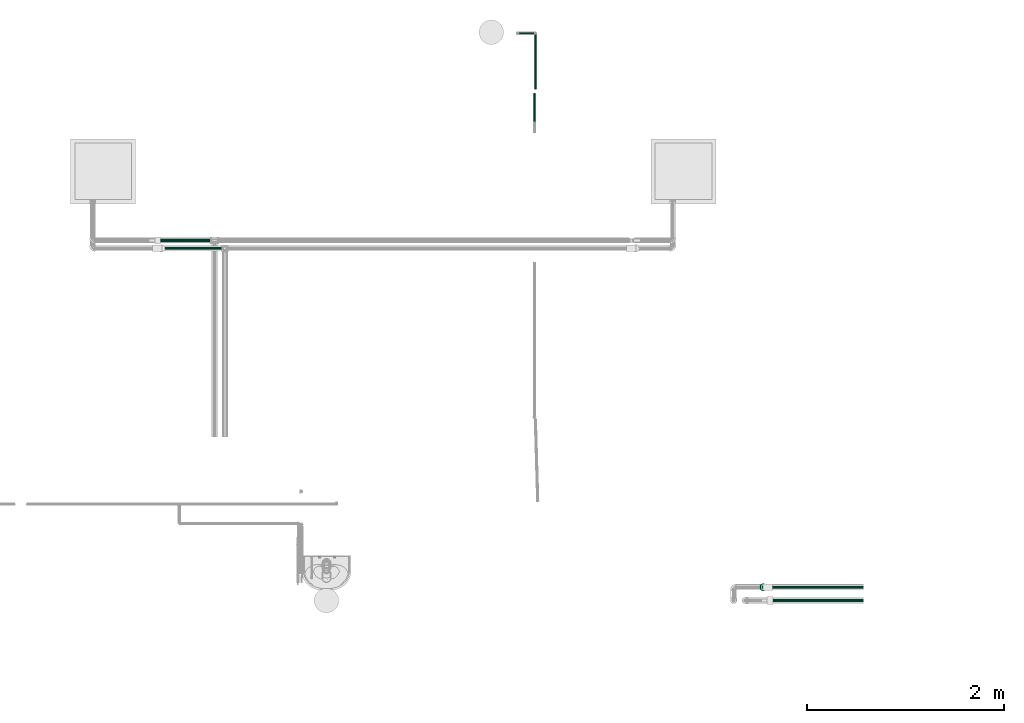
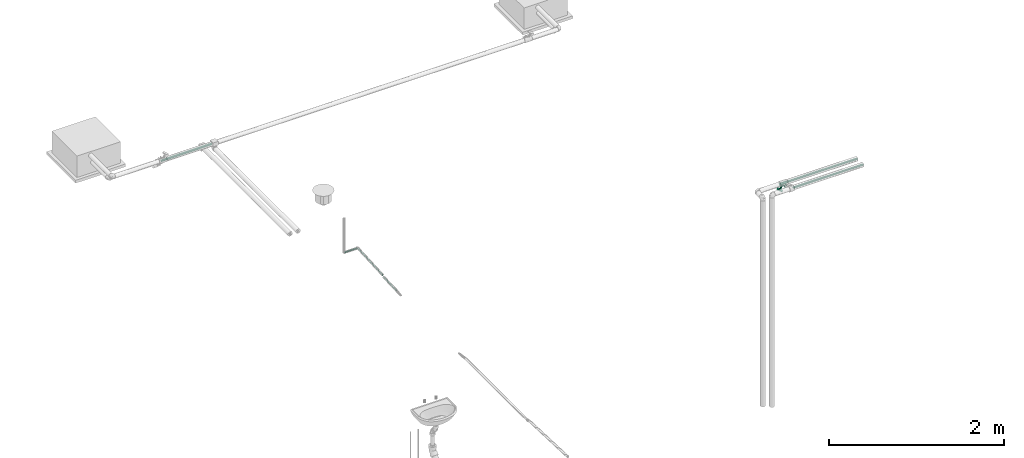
# One storey, part 59 of 108: 7 flow segments, 1 flow controller.
"""IFC2X3 building model written with IfcOpenShell, lengths in millimetres."""

from ifc_helpers import new_model, entity, si_unit, converted_unit, derived_unit, direction, frame, origin_with_axes, origin_2d_with_axis, place, context, subcontext, project, spatial, hollow_circle, extrude, open_shell, surface_model, source, transform, mapped, type_object, element, save


model = new_model("IFC2X3")

# Units and contexts
model_context = context("Model", 3, precision=0.01, world=frame((0.0, 4.29681676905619e-09, 0.0)), true_north=direction((4.01073788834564e-13, 1.0)))
plan_context = context("Plan", 3, precision=0.01, world=frame((0.0, 4.29681676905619e-09, 0.0)), true_north=direction((4.01073788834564e-13, 1.0)))
body_context = subcontext(model_context, "Body", "Model", "MODEL_VIEW")
ifc_project = project(units=[converted_unit("PLANEANGLEUNIT", "DEGREE", entity("IfcPositiveLengthMeasure", 0.0174532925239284), si_unit("PLANEANGLEUNIT", "RADIAN"), dimensions=[0, 0, 0, 0, 0, 0, 0]), si_unit("AREAUNIT", "SQUARE_METRE"), si_unit("LENGTHUNIT", "METRE", prefix="MILLI"), si_unit("MASSUNIT", "GRAM", prefix="KILO"), si_unit("POWERUNIT", "WATT"), si_unit("PRESSUREUNIT", "PASCAL", prefix="KILO"), si_unit("FORCEUNIT", "NEWTON", prefix="KILO"), si_unit("ELECTRICVOLTAGEUNIT", "VOLT"), si_unit("ELECTRICCURRENTUNIT", "AMPERE"), si_unit("THERMODYNAMICTEMPERATUREUNIT", "DEGREE_CELSIUS"), si_unit("TIMEUNIT", "SECOND"), si_unit("VOLUMEUNIT", "CUBIC_METRE"), derived_unit("LINEARVELOCITYUNIT", [(si_unit("LENGTHUNIT", "METRE"), 1), (si_unit("TIMEUNIT", "SECOND"), -1)]), derived_unit("VOLUMETRICFLOWRATEUNIT", [(si_unit("VOLUMEUNIT", "CUBIC_METRE"), 1), (si_unit("TIMEUNIT", "SECOND"), -1)]), derived_unit("THERMALTRANSMITTANCEUNIT", [(si_unit("POWERUNIT", "WATT"), 1), (si_unit("THERMODYNAMICTEMPERATUREUNIT", "KELVIN"), -1), (si_unit("AREAUNIT", "SQUARE_METRE"), -1)]), derived_unit("SOUNDPRESSUREUNIT", [(si_unit("PRESSUREUNIT", "PASCAL"), 1)])], contexts=[model_context, plan_context])

# Site, building, storey
site_placement = place(None, frame((0.0, -4.29681676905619e-09, 0.0), z_axis=(0.0, 0.0, 1.0), x_axis=(1.0, 0.0, 0.0)))
site = spatial("IfcSite", under=ifc_project, at=site_placement, CompositionType="ELEMENT")
building_placement = place(site_placement, frame((0.0, 4.29681676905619e-09, 0.0), z_axis=(0.0, 0.0, 1.0), x_axis=(1.0, 0.0, 0.0)))
building = spatial("IfcBuilding", under=site, at=building_placement, Name="mc-building", CompositionType="ELEMENT")
storey_placement = place(building_placement, frame((0.0, 0.0, 210200.0), z_axis=(0.0, 0.0, 1.0), x_axis=(1.0, 0.0, 0.0)))
storey = spatial("IfcBuildingStorey", under=building, at=storey_placement, Name="Nivå F - 0,7 m", CompositionType="ELEMENT", Elevation=210200.0)

# Flow controller
valve_type = type_object("IfcValveType", Name="STAD/F-20", PredefinedType="NOTDEFINED")
shared_shape_1 = source(origin_with_axes(), body_context, "Body", "SurfaceModel", [
    surface_model("IfcShellBasedSurfaceModel", [(5.41266, -10.82532, 3.125), (7.65466, -8.83883, 4.41942), (5.32606, -10.65211, 3.075), (2.75697, -11.88089, 1.59174), (0.0, -12.3, 0.0), (2.8018, -12.07407, 1.61762), (0.0, -12.5, 0.0), (7.53218, -8.69741, 4.34871), (10.45645, -3.23524, 6.03704), (10.65211, 0.0, 6.15), (10.28915, -3.18347, 5.94044), (10.82532, 0.0, 6.25), (9.375, -6.25, 5.41266), (9.225, -6.15, 5.32606), (-2.75697, -11.88089, -1.59174), (-2.8018, -12.07407, -1.61762), (-5.32606, -10.65211, -3.075), (-7.65466, -8.83883, -4.41942), (-5.41266, -10.82532, -3.125), (-7.53218, -8.69741, -4.34871), (-9.225, -6.15, -5.32606), (-9.375, -6.25, -5.41266), (-10.28915, -3.18347, -5.94044), (-10.45645, -3.23524, -6.03704), (-10.65211, 0.0, -6.15), (-10.82532, 0.0, -6.25), (10.45645, 3.23524, 6.03704), (10.28915, 3.18347, 5.94044), (9.225, 6.15, 5.32606), (9.375, 6.25, 5.41266), (7.53218, 8.69741, 4.34871), (7.65466, 8.83883, 4.41942), (5.41266, 10.82532, 3.125), (5.32606, 10.65211, 3.075), (2.75697, 11.88089, 1.59174), (2.8018, 12.07407, 1.61762), (0.0, 12.3, 0.0), (0.0, 12.5, 0.0), (-9.375, 6.25, -5.41266), (-9.225, 6.15, -5.32606), (-7.65466, 8.83883, -4.41942), (-7.53218, 8.69741, -4.34871), (-10.45645, 3.23524, -6.03704), (-10.28915, 3.18347, -5.94044), (-2.75697, 11.88089, -1.59174), (-2.8018, 12.07407, -1.61762), (-5.32606, 10.65211, -3.075), (-5.41266, 10.82532, -3.125), (78.86936, 9.70571, -64.16131), (70.46396, 26.5165, -69.01416), (75.625, 18.75, -66.03444), (24.53603, 26.5165, -95.53067), (16.13063, 9.70571, -100.38353), (19.37499, 18.75, -98.51039), (31.26202, 32.47595, -91.64741), (63.73797, -32.47595, -72.89742), (75.625, -18.75, -66.03444), (70.46396, -26.5165, -69.01416), (55.90539, -36.22222, -77.41956), (47.49999, -37.5, -82.27241), (69.625, -18.75, -55.64213), (57.73797, -32.47595, -62.50511), (64.46396, -26.5165, -58.62186), (10.13063, -9.70571, -89.99122), (10.13063, 9.70571, -89.99122), (9.02404, 0.0, -90.63011), (72.86936, -9.70571, -53.769), (64.46396, 26.5165, -58.62186), (72.86936, 9.70571, -53.769), (69.625, 18.75, -55.64213), (57.73797, 32.47595, -62.50511), (49.90539, 36.22222, -67.02725), (25.26202, 32.47595, -81.25511), (41.5, 37.5, -71.88011), (33.0946, 36.22222, -76.73297), (13.375, 18.75, -88.11809), (18.53603, 26.5165, -85.13836), (39.0946, 36.22222, -87.12527), (15.02404, 0.0, -101.02241), (47.49999, 37.5, -82.27241), (55.90539, 36.22222, -77.41956), (63.73797, 32.47595, -72.89742), (79.97595, 0.0, -63.52242), (73.97595, 0.0, -53.13011), (78.86936, -9.70571, -64.16131), (49.90539, -36.22222, -67.02725), (41.5, -37.5, -71.88011), (33.0946, -36.22222, -76.73297), (39.0946, -36.22222, -87.12527), (25.26202, -32.47595, -81.25511), (31.26202, -32.47595, -91.64741), (19.37499, -18.75, -98.51039), (18.53603, -26.5165, -85.13836), (13.375, -18.75, -88.11809), (24.53603, -26.5165, -95.53067), (16.13063, -9.70571, -100.38353), (46.91266, 10.82532, -68.75511), (49.15465, 8.83883, -67.46069), (46.82605, 10.65211, -68.80511), (44.25696, 11.88089, -70.28837), (41.5, 12.3, -71.88011), (44.30179, 12.07407, -70.26249), (41.5, 12.5, -71.88011), (49.03218, 8.69741, -67.5314), (51.95645, 3.23524, -65.84307), (52.15211, 0.0, -65.73011), (51.78915, 3.18347, -65.93967), (52.32531, 0.0, -65.63011), (50.875, 6.25, -66.46745), (50.725, 6.15, -66.55405), (38.74302, 11.88089, -73.47185), (38.6982, 12.07407, -73.49773), (36.17394, 10.65211, -74.95511), (33.84534, 8.83883, -76.29953), (36.08734, 10.82532, -75.00511), (33.96781, 8.69741, -76.22881), (32.275, 6.15, -77.20617), (32.125, 6.25, -77.29277), (31.21084, 3.18347, -77.82055), (31.04354, 3.23524, -77.91715), (30.84788, 0.0, -78.03011), (30.67468, 0.0, -78.13011), (51.95645, -3.23524, -65.84307), (51.78915, -3.18347, -65.93967), (50.725, -6.15, -66.55405), (50.875, -6.25, -66.46745), (49.03218, -8.69741, -67.5314), (49.15465, -8.83883, -67.46069), (46.91266, -10.82532, -68.75511), (46.82605, -10.65211, -68.80511), (44.25696, -11.88089, -70.28837), (44.30179, -12.07407, -70.26249), (41.5, -12.3, -71.88011), (41.5, -12.5, -71.88011), (32.125, -6.25, -77.29277), (32.275, -6.15, -77.20617), (33.84534, -8.83883, -76.29953), (33.96781, -8.69741, -76.22881), (31.04354, -3.23524, -77.91715), (31.21084, -3.18347, -77.82055), (38.74302, -11.88089, -73.47185), (38.6982, -12.07407, -73.49773), (36.17394, -10.65211, -74.95511), (36.08734, -10.82532, -75.00511), (48.5, 8.91, -15.43257), (48.5, 17.82, 0.0), (48.5, -8.91, -15.43257), (48.5, 8.91, 15.43257), (48.5, -8.91, 15.43257), (48.5, -17.82, 0.0), (38.5, -17.82, 0.0), (38.5, -8.91, 15.43257), (38.5, -8.91, -15.43257), (38.5, 8.91, 15.43257), (38.5, 17.82, 0.0), (38.5, 8.91, -15.43257), (-48.5, -8.91, -15.43257), (-48.5, -17.82, 0.0), (-48.5, 8.91, -15.43257), (-48.5, -8.91, 15.43257), (-48.5, 8.91, 15.43257), (-48.5, 17.82, 0.0), (-38.5, 17.82, 0.0), (-38.5, 8.91, 15.43257), (-38.5, 8.91, -15.43257), (-38.5, -8.91, 15.43257), (-38.5, -17.82, 0.0), (-38.5, -8.91, -15.43257), (38.5, 7.425, -12.86048), (38.5, -7.425, -12.86048), (38.5, 3.84346, -14.344), (38.5, 10.50054, -10.50054), (38.5, -14.344, 3.84346), (38.5, -3.84346, 14.344), (38.5, 12.86048, -7.425), (38.5, 14.344, -3.84346), (38.5, -10.50054, 10.50054), (38.5, 0.0, -14.85), (38.5, -3.84346, -14.344), (38.5, -10.50054, -10.50054), (38.5, -14.344, -3.84346), (38.5, -12.86048, -7.425), (38.5, 14.85, 0.0), (38.5, 14.344, 3.84346), (38.5, 12.86048, 7.425), (38.5, 10.50054, 10.50054), (38.5, 7.425, 12.86048), (38.5, 3.84346, 14.344), (38.5, 0.0, 14.85), (38.5, -12.86048, 7.425), (38.5, -14.85, 0.0), (38.5, -7.425, 12.86048), (-38.5, 0.0, 14.85), (-38.5, 3.84346, 14.344), (-38.5, 7.425, 12.86048), (-38.5, -3.84346, 14.344), (-38.5, 10.50054, 10.50054), (-38.5, 12.86048, 7.425), (-38.5, 14.344, 3.84346), (-38.5, -10.50054, 10.50054), (-38.5, -7.425, 12.86048), (-38.5, -14.344, 3.84346), (-38.5, -12.86048, 7.425), (-38.5, -14.344, -3.84346), (-38.5, -14.85, 0.0), (-38.5, 10.50054, -10.50054), (-38.5, 14.344, -3.84346), (-38.5, 12.86048, -7.425), (-38.5, 7.425, -12.86048), (-38.5, -7.425, -12.86048), (-38.5, 0.0, -14.85), (-38.5, 3.84346, -14.344), (-38.5, -10.50054, -10.50054), (-38.5, -12.86048, -7.425), (-38.5, -3.84346, -14.344), (-38.5, 14.85, 0.0), (-21.28648, 6.49519, -65.18525), (-29.12686, 5.3033, -60.6586), (-22.85299, 7.24444, -64.28082), (-18.90907, 3.75, -66.55784), (-19.94128, 5.3033, -65.9619), (-18.2602, 1.94114, -66.93247), (-18.03888, 0.0, -67.06025), (-31.02926, 0.0, -59.56025), (-26.21515, 7.24444, -62.33968), (-27.78167, 6.49519, -61.43524), (-24.53407, 7.5, -63.31025), (-30.15907, 3.75, -60.06265), (-30.80794, 1.94114, -59.68803), (-18.90907, -3.75, -66.55784), (-21.28648, -6.49519, -65.18525), (-19.94128, -5.3033, -65.9619), (-22.85299, -7.24444, -64.28082), (-24.53407, -7.5, -63.31025), (-29.12686, -5.3033, -60.6586), (-30.15907, -3.75, -60.06265), (-30.80794, -1.94114, -59.68803), (-26.21515, -7.24444, -62.33968), (-27.78167, -6.49519, -61.43524), (-18.2602, -1.94114, -66.93247), (11.647, -7.24444, -4.52506), (5.37313, -5.3033, -0.90284), (9.96592, -7.5, -3.55449), (14.55872, -5.3033, -6.20614), (13.21352, -6.49519, -5.42949), (16.2398, 1.94114, -7.17671), (15.59092, -3.75, -6.80209), (16.46111, 0.0, -7.30449), (8.28485, -7.24444, -2.58392), (6.71833, -6.49519, -1.67949), (3.69205, -1.94114, 0.06773), (4.34092, -3.75, -0.3069), (3.69205, 1.94114, 0.06773), (3.47073, 0.0, 0.19551), (16.2398, -1.94114, -7.17671), (11.647, 7.24444, -4.52506), (15.59092, 3.75, -6.80209), (14.55872, 5.3033, -6.20614), (13.21352, 6.49519, -5.42949), (6.71833, 6.49519, -1.67949), (5.37313, 5.3033, -0.90284), (4.34092, 3.75, -0.3069), (9.96592, 7.5, -3.55449), (8.28485, 7.24444, -2.58392), (-45.53519, 7.5, -51.18525), (-43.85411, 7.24444, -52.15582), (-42.28759, 6.49519, -53.06025), (-40.9424, 5.3033, -53.8369), (-51.80906, 1.94114, -47.56303), (-39.26132, 1.94114, -54.80747), (-39.91019, 3.75, -54.43284), (-51.80906, -1.94114, -47.56303), (-47.21627, 7.24444, -50.21468), (-50.12798, 5.3033, -48.5336), (-48.78278, 6.49519, -49.31025), (-51.16019, 3.75, -47.93765), (-39.04, 0.0, -54.93525), (-39.26132, -1.94114, -54.80747), (-39.91019, -3.75, -54.43284), (-40.9424, -5.3033, -53.8369), (-42.28759, -6.49519, -53.06025), (-43.85411, -7.24444, -52.15582), (-45.53519, -7.5, -51.18525), (-50.12798, -5.3033, -48.5336), (-51.16019, -3.75, -47.93765), (-52.03038, 0.0, -47.43525), (-47.21627, -7.24444, -50.21468), (-48.78278, -6.49519, -49.31025), (-19.35411, -7.24444, -9.72057), (-25.62798, -5.3033, -6.09835), (-21.03519, -7.5, -8.75), (-16.4424, -5.3033, -11.40165), (-17.7876, -6.49519, -10.625), (-15.41019, -3.75, -11.9976), (-14.76132, -1.94114, -12.37222), (-24.28279, -6.49519, -6.875), (-22.71627, -7.24444, -7.77943), (-26.66019, -3.75, -5.50241), (-27.30906, -1.94114, -5.12778), (-27.30906, 1.94114, -5.12778), (-27.53038, 0.0, -5.0), (-14.76132, 1.94114, -12.37222), (-19.35411, 7.24444, -9.72057), (-16.4424, 5.3033, -11.40165), (-15.41019, 3.75, -11.9976), (-17.7876, 6.49519, -10.625), (-25.62798, 5.3033, -6.09835), (-26.66019, 3.75, -5.50241), (-24.28279, 6.49519, -6.875), (-21.03519, 7.5, -8.75), (-22.71627, 7.24444, -7.77943), (-14.54, 0.0, -12.5)], [open_shell([[[0, 1, 2]], [[0, 2, 3]], [[4, 5, 3]], [[5, 4, 6]], [[3, 5, 0]], [[2, 1, 7]], [[8, 9, 10]], [[9, 8, 11]], [[8, 10, 12]], [[7, 12, 13]], [[12, 7, 1]], [[13, 12, 10]], [[6, 14, 15]], [[15, 14, 16]], [[17, 18, 19]], [[16, 18, 15]], [[16, 19, 18]], [[6, 4, 14]], [[20, 21, 17]], [[21, 20, 22]], [[20, 17, 19]], [[23, 22, 24]], [[22, 23, 21]], [[23, 24, 25]], [[11, 26, 27]], [[27, 26, 28]], [[28, 29, 30]], [[29, 28, 26]], [[30, 29, 31]], [[31, 32, 33]], [[33, 32, 34]], [[34, 35, 36]], [[35, 34, 32]], [[36, 35, 37]], [[33, 30, 31]], [[38, 39, 40]], [[40, 39, 41]], [[39, 38, 42]], [[25, 43, 42]], [[42, 43, 39]], [[25, 24, 43]], [[44, 37, 45]], [[44, 45, 46]], [[41, 47, 40]], [[41, 46, 47]], [[47, 46, 45]], [[36, 37, 44]], [[27, 9, 11]], [[48, 49, 50]], [[51, 52, 53]], [[52, 51, 54]], [[55, 56, 57]], [[55, 58, 59]], [[60, 61, 62]], [[63, 64, 65]], [[63, 66, 67]], [[66, 68, 67]], [[67, 68, 69]], [[67, 70, 71]], [[72, 73, 74]], [[64, 52, 65]], [[75, 53, 64]], [[54, 76, 72]], [[75, 76, 51]], [[77, 72, 74]], [[64, 53, 52]], [[52, 78, 65]], [[77, 54, 72]], [[51, 76, 54]], [[51, 53, 75]], [[79, 77, 74]], [[74, 73, 79]], [[71, 80, 73]], [[70, 81, 71]], [[50, 67, 69]], [[70, 67, 49]], [[48, 69, 68]], [[70, 49, 81]], [[81, 80, 71]], [[82, 48, 68]], [[50, 69, 48]], [[50, 49, 67]], [[83, 82, 68]], [[73, 80, 79]], [[66, 84, 83]], [[60, 56, 66]], [[55, 62, 61]], [[60, 62, 57]], [[58, 61, 85]], [[66, 56, 84]], [[84, 82, 83]], [[58, 55, 61]], [[57, 62, 55]], [[57, 56, 60]], [[59, 58, 85]], [[85, 86, 59]], [[87, 88, 86]], [[89, 90, 87]], [[91, 92, 93]], [[89, 92, 94]], [[95, 93, 63]], [[89, 94, 90]], [[90, 88, 87]], [[78, 95, 63]], [[91, 93, 95]], [[91, 94, 92]], [[65, 78, 63]], [[86, 88, 59]], [[96, 97, 98]], [[96, 98, 99]], [[100, 101, 99]], [[101, 100, 102]], [[99, 101, 96]], [[98, 97, 103]], [[104, 105, 106]], [[105, 104, 107]], [[104, 106, 108]], [[103, 108, 109]], [[108, 103, 97]], [[109, 108, 106]], [[102, 110, 111]], [[111, 110, 112]], [[113, 114, 115]], [[112, 114, 111]], [[112, 115, 114]], [[102, 100, 110]], [[116, 117, 113]], [[117, 116, 118]], [[116, 113, 115]], [[119, 118, 120]], [[118, 119, 117]], [[119, 120, 121]], [[107, 122, 123]], [[123, 122, 124]], [[124, 125, 126]], [[125, 124, 122]], [[126, 125, 127]], [[127, 128, 129]], [[129, 128, 130]], [[130, 131, 132]], [[131, 130, 128]], [[132, 131, 133]], [[129, 126, 127]], [[134, 135, 136]], [[136, 135, 137]], [[135, 134, 138]], [[121, 139, 138]], [[138, 139, 135]], [[121, 120, 139]], [[140, 133, 141]], [[140, 141, 142]], [[137, 143, 136]], [[137, 142, 143]], [[143, 142, 141]], [[132, 133, 140]], [[123, 105, 107]], [[42, 119, 25]], [[38, 117, 42]], [[114, 40, 47]], [[38, 40, 113]], [[111, 47, 45]], [[42, 117, 119]], [[119, 121, 25]], [[111, 114, 47]], [[113, 40, 114]], [[113, 117, 38]], [[102, 111, 45]], [[45, 37, 102]], [[35, 101, 37]], [[32, 96, 35]], [[108, 31, 29]], [[32, 31, 97]], [[104, 29, 26]], [[32, 97, 96]], [[96, 101, 35]], [[107, 104, 26]], [[108, 29, 104]], [[108, 97, 31]], [[11, 107, 26]], [[37, 101, 102]], [[8, 122, 11]], [[12, 125, 8]], [[128, 1, 0]], [[12, 1, 127]], [[131, 0, 5]], [[11, 122, 107]], [[8, 125, 122]], [[1, 128, 127]], [[12, 127, 125]], [[0, 131, 128]], [[5, 133, 131]], [[5, 6, 133]], [[15, 141, 6]], [[18, 143, 15]], [[134, 17, 21]], [[18, 17, 136]], [[134, 21, 23]], [[141, 15, 143]], [[143, 18, 136]], [[25, 121, 138]], [[134, 23, 138]], [[134, 136, 17]], [[23, 25, 138]], [[6, 141, 133]], [[24, 118, 43]], [[43, 116, 39]], [[46, 41, 112]], [[115, 41, 39]], [[44, 46, 110]], [[120, 118, 24]], [[118, 116, 43]], [[44, 110, 100]], [[115, 39, 116]], [[112, 41, 115]], [[112, 110, 46]], [[100, 36, 44]], [[30, 33, 98]], [[27, 28, 109]], [[103, 28, 30]], [[9, 27, 106]], [[98, 34, 99]], [[34, 100, 99]], [[98, 33, 34]], [[103, 30, 98]], [[109, 28, 103]], [[27, 109, 106]], [[106, 105, 9]], [[36, 100, 34]], [[9, 123, 10]], [[10, 124, 13]], [[2, 7, 129]], [[126, 7, 13]], [[3, 2, 130]], [[105, 123, 9]], [[123, 124, 10]], [[130, 132, 4]], [[126, 13, 124]], [[2, 129, 130]], [[126, 129, 7]], [[4, 3, 130]], [[16, 14, 142]], [[16, 142, 19]], [[22, 20, 135]], [[137, 20, 19]], [[24, 22, 139]], [[4, 140, 14]], [[140, 142, 14]], [[132, 140, 4]], [[142, 137, 19]], [[135, 20, 137]], [[139, 22, 135]], [[139, 120, 24]], [[144, 145, 146]], [[146, 145, 147]], [[146, 148, 149]], [[148, 146, 147]], [[150, 151, 152]], [[152, 151, 153]], [[154, 155, 152]], [[154, 152, 153]], [[148, 147, 153]], [[153, 151, 148]], [[149, 148, 151]], [[151, 150, 149]], [[146, 149, 150]], [[150, 152, 146]], [[144, 146, 152]], [[152, 155, 144]], [[145, 144, 155]], [[155, 154, 145]], [[147, 145, 154]], [[154, 153, 147]], [[156, 157, 158]], [[158, 157, 159]], [[158, 160, 161]], [[160, 158, 159]], [[162, 163, 164]], [[164, 163, 165]], [[166, 167, 164]], [[166, 164, 165]], [[160, 159, 165]], [[165, 163, 160]], [[161, 160, 163]], [[163, 162, 161]], [[158, 161, 162]], [[162, 164, 158]], [[156, 158, 164]], [[164, 167, 156]], [[157, 156, 167]], [[167, 166, 157]], [[159, 157, 166]], [[166, 165, 159]], [[80, 81, 49]], [[79, 80, 49]], [[52, 49, 48]], [[84, 52, 48]], [[77, 52, 54]], [[77, 79, 49]], [[49, 52, 77]], [[48, 82, 84]], [[56, 78, 84]], [[55, 59, 56]], [[94, 56, 59]], [[95, 94, 91]], [[94, 95, 78]], [[59, 90, 94]], [[94, 78, 56]], [[88, 90, 59]], [[84, 78, 52]], [[85, 92, 86]], [[66, 85, 61]], [[60, 66, 61]], [[92, 85, 66]], [[87, 92, 89]], [[87, 86, 92]], [[92, 63, 93]], [[66, 63, 92]], [[72, 63, 67]], [[73, 67, 71]], [[75, 72, 76]], [[64, 63, 75]], [[75, 63, 72]], [[73, 72, 67]], [[68, 66, 83]], [[168, 169, 170]], [[171, 172, 168]], [[173, 174, 175]], [[176, 171, 174]], [[172, 169, 168]], [[177, 169, 178]], [[177, 170, 169]], [[179, 180, 181]], [[180, 179, 169]], [[169, 172, 180]], [[175, 182, 183]], [[183, 184, 185]], [[183, 185, 186]], [[186, 187, 188]], [[183, 186, 173]], [[173, 186, 188]], [[172, 176, 189]], [[190, 180, 172]], [[176, 173, 191]], [[172, 171, 176]], [[176, 174, 173]], [[183, 173, 175]], [[192, 193, 194]], [[195, 192, 194]], [[196, 197, 198]], [[195, 194, 196]], [[195, 196, 198]], [[195, 199, 200]], [[199, 195, 201]], [[199, 201, 202]], [[195, 198, 201]], [[201, 203, 204]], [[201, 198, 205]], [[206, 207, 198]], [[207, 205, 198]], [[208, 209, 201]], [[201, 205, 208]], [[210, 208, 211]], [[203, 212, 213]], [[212, 203, 209]], [[209, 210, 214]], [[203, 201, 209]], [[208, 210, 209]], [[198, 215, 206]], [[180, 203, 213]], [[212, 181, 213]], [[169, 209, 214]], [[212, 209, 179]], [[178, 214, 210]], [[203, 190, 204]], [[203, 180, 190]], [[213, 181, 180]], [[212, 179, 181]], [[169, 179, 209]], [[214, 178, 169]], [[210, 177, 178]], [[170, 211, 208]], [[205, 168, 208]], [[174, 207, 206]], [[205, 207, 171]], [[175, 206, 215]], [[211, 170, 177]], [[208, 168, 170]], [[205, 171, 168]], [[207, 174, 171]], [[175, 174, 206]], [[215, 182, 175]], [[211, 177, 210]], [[215, 198, 183]], [[186, 194, 193]], [[194, 185, 196]], [[187, 193, 192]], [[215, 183, 182]], [[183, 198, 197]], [[183, 197, 184]], [[197, 196, 184]], [[184, 196, 185]], [[185, 194, 186]], [[193, 187, 186]], [[192, 188, 187]], [[173, 195, 200]], [[199, 191, 200]], [[189, 202, 201]], [[199, 202, 176]], [[172, 201, 204]], [[195, 173, 188]], [[200, 191, 173]], [[199, 176, 191]], [[202, 189, 176]], [[172, 189, 201]], [[204, 190, 172]], [[195, 188, 192]], [[216, 217, 218]], [[219, 216, 220]], [[219, 221, 222]], [[219, 222, 216]], [[223, 217, 216]], [[224, 217, 225]], [[224, 226, 218]], [[227, 223, 228]], [[224, 218, 217]], [[227, 217, 223]], [[223, 216, 222]], [[222, 229, 230]], [[230, 229, 231]], [[230, 232, 233]], [[222, 230, 234]], [[234, 230, 233]], [[223, 235, 236]], [[235, 223, 234]], [[234, 237, 238]], [[223, 222, 234]], [[233, 237, 234]], [[222, 239, 229]], [[240, 241, 242]], [[243, 240, 244]], [[241, 243, 245]], [[243, 241, 240]], [[243, 246, 247]], [[248, 241, 249]], [[248, 242, 241]], [[241, 250, 251]], [[241, 252, 250]], [[250, 252, 253]], [[246, 254, 247]], [[252, 241, 245]], [[255, 245, 256]], [[257, 258, 255]], [[257, 255, 256]], [[259, 245, 255]], [[252, 260, 261]], [[260, 252, 259]], [[259, 262, 263]], [[259, 252, 245]], [[255, 262, 259]], [[245, 243, 247]], [[252, 228, 253]], [[261, 227, 252]], [[225, 260, 259]], [[261, 260, 217]], [[224, 259, 263]], [[252, 227, 228]], [[228, 223, 253]], [[224, 225, 259]], [[217, 260, 225]], [[217, 227, 261]], [[226, 224, 263]], [[263, 262, 226]], [[255, 218, 262]], [[258, 216, 255]], [[219, 257, 256]], [[258, 257, 220]], [[221, 256, 245]], [[258, 220, 216]], [[216, 218, 255]], [[222, 221, 245]], [[219, 256, 221]], [[219, 220, 257]], [[247, 222, 245]], [[262, 218, 226]], [[254, 239, 247]], [[246, 229, 254]], [[230, 243, 244]], [[246, 243, 231]], [[232, 244, 240]], [[247, 239, 222]], [[254, 229, 239]], [[243, 230, 231]], [[246, 231, 229]], [[244, 232, 230]], [[240, 233, 232]], [[240, 242, 233]], [[248, 237, 242]], [[249, 238, 248]], [[235, 241, 251]], [[249, 241, 234]], [[236, 251, 250]], [[237, 248, 238]], [[238, 249, 234]], [[253, 223, 236]], [[235, 251, 236]], [[235, 234, 241]], [[250, 253, 236]], [[242, 237, 233]], [[264, 265, 266]], [[267, 264, 266]], [[268, 267, 269]], [[269, 267, 270]], [[271, 268, 269]], [[272, 273, 274]], [[273, 272, 264]], [[273, 268, 275]], [[268, 273, 264]], [[264, 267, 268]], [[269, 276, 277]], [[277, 278, 279]], [[280, 269, 279]], [[269, 281, 271]], [[269, 280, 281]], [[271, 281, 282]], [[271, 283, 284]], [[285, 268, 271]], [[283, 286, 287]], [[286, 283, 271]], [[282, 286, 271]], [[269, 277, 279]], [[288, 289, 290]], [[291, 288, 292]], [[291, 293, 294]], [[291, 294, 288]], [[289, 288, 294]], [[290, 295, 296]], [[290, 289, 295]], [[294, 297, 289]], [[298, 297, 294]], [[298, 299, 300]], [[298, 294, 301]], [[298, 301, 302]], [[303, 301, 304]], [[305, 302, 301]], [[305, 301, 303]], [[298, 302, 299]], [[299, 306, 307]], [[306, 299, 308]], [[308, 309, 310]], [[308, 299, 302]], [[302, 309, 308]], [[301, 294, 311]], [[299, 268, 300]], [[307, 275, 299]], [[274, 306, 308]], [[307, 306, 273]], [[272, 308, 310]], [[299, 275, 268]], [[268, 285, 300]], [[272, 274, 308]], [[273, 306, 274]], [[273, 275, 307]], [[264, 272, 310]], [[310, 309, 264]], [[302, 265, 309]], [[305, 266, 302]], [[270, 303, 304]], [[305, 303, 267]], [[269, 304, 301]], [[305, 267, 266]], [[266, 265, 302]], [[276, 269, 301]], [[270, 304, 269]], [[270, 267, 303]], [[311, 276, 301]], [[309, 265, 264]], [[294, 277, 311]], [[293, 278, 294]], [[280, 291, 292]], [[293, 291, 279]], [[281, 292, 288]], [[294, 278, 277]], [[277, 276, 311]], [[281, 280, 292]], [[279, 291, 280]], [[279, 278, 293]], [[282, 281, 288]], [[288, 290, 282]], [[296, 286, 290]], [[295, 287, 296]], [[284, 289, 297]], [[295, 289, 283]], [[271, 297, 298]], [[295, 283, 287]], [[287, 286, 296]], [[285, 271, 298]], [[284, 297, 271]], [[284, 283, 289]], [[300, 285, 298]], [[290, 286, 282]]])]),
])
flow_controller_placement = place(storey_placement, frame((343894.49418, 460458.91341, 2545.5), z_axis=(0.0, 0.0, 1.0), x_axis=(-1.0, 0.0, 0.0)))
element("IfcFlowController", 1, at=flow_controller_placement, inside=storey, type_object=valve_type, Name="STAD/F-20", context=body_context, shape_type="MappedRepresentation", body=[
    mapped(shared_shape_1, transform((0.0, 0.0, 0.0), scale=1.0)),
])

# Flow segments
pipe_segment_type_1 = type_object("IfcPipeSegmentType", Name="Stålrør normaltykke", PredefinedType="RIGIDSEGMENT")
shared_shape_2 = source(origin_with_axes(), body_context, "Body", "SweptSolid", [
    extrude(hollow_circle(Radius=13.3, WallThickness=2.0, at=origin_2d_with_axis()), frame((0.0, 0.0, 0.0), z_axis=(1.0, 0.0, 0.0), x_axis=(0.0, 1.0, 0.0)), (0.0, 0.0, 1.0), 507.4),
])
flow_segment_1_placement = place(storey_placement, frame((337723.87202, 463983.47358, 2880.0), z_axis=(0.0, 0.0, 1.0), x_axis=(1.0, 0.0, 0.0)))
element("IfcFlowSegment", 2, at=flow_segment_1_placement, inside=storey, type_object=pipe_segment_type_1, Name="Stålrør normaltykke", context=body_context, shape_type="MappedRepresentation", body=[
    mapped(shared_shape_2, transform((0.0, 0.0, 0.0), scale=1.0)),
])
shared_shape_3 = source(origin_with_axes(), body_context, "Body", "SweptSolid", [
    extrude(hollow_circle(Radius=13.3, WallThickness=2.0, at=origin_2d_with_axis()), frame((0.0, 0.0, 0.0), z_axis=(1.0, 0.0, 0.0), x_axis=(0.0, 1.0, 0.0)), (0.0, 0.0, 1.0), 603.8),
])
flow_segment_2_placement = place(storey_placement, frame((337739.56154, 463903.47358, 2948.0), z_axis=(0.0, 0.0, 1.0), x_axis=(1.0, 0.0, 0.0)))
element("IfcFlowSegment", 3, at=flow_segment_2_placement, inside=storey, type_object=pipe_segment_type_1, Name="Stålrør normaltykke", context=body_context, shape_type="MappedRepresentation", body=[
    mapped(shared_shape_3, transform((0.0, 0.0, 0.0), scale=1.0)),
])
shared_shape_4 = source(origin_with_axes(), body_context, "Body", "SweptSolid", [
    extrude(hollow_circle(Radius=13.3, WallThickness=2.0, at=origin_2d_with_axis()), frame((0.0, 0.0, 0.0), z_axis=(1.0, 0.0, 0.0), x_axis=(0.0, 1.0, 0.0)), (0.0, 0.0, 1.0), 921.2),
])
flow_segment_3_placement = place(storey_placement, frame((343947.74418, 460323.91341, 2545.47687000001), z_axis=(0.0, 0.0, 1.0), x_axis=(1.0, 0.0, 0.0)))
element("IfcFlowSegment", 4, at=flow_segment_3_placement, inside=storey, type_object=pipe_segment_type_1, Name="Stålrør normaltykke", context=body_context, shape_type="MappedRepresentation", body=[
    mapped(shared_shape_4, transform((0.0, 0.0, 0.0), scale=1.0)),
])
shared_shape_5 = source(origin_with_axes(), body_context, "Body", "SweptSolid", [
    extrude(hollow_circle(Radius=13.3, WallThickness=2.0, at=origin_2d_with_axis()), frame((0.0, 0.0, 0.0), z_axis=(1.0, 0.0, 0.0), x_axis=(0.0, 1.0, 0.0)), (0.0, 0.0, 1.0), 926.0),
])
flow_segment_4_placement = place(storey_placement, frame((343942.99418, 460458.91341, 2545.5), z_axis=(0.0, 0.0, 1.0), x_axis=(1.0, 0.0, 0.0)))
element("IfcFlowSegment", 5, at=flow_segment_4_placement, inside=storey, type_object=pipe_segment_type_1, Name="Stålrør normaltykke", context=body_context, shape_type="MappedRepresentation", body=[
    mapped(shared_shape_5, transform((0.0, 0.0, 0.0), scale=1.0)),
])
pipe_segment_type_2 = type_object("IfcPipeSegmentType", Name="Kobberrør", PredefinedType="RIGIDSEGMENT")
shared_shape_6 = source(origin_with_axes(), body_context, "Body", "SweptSolid", [
    extrude(hollow_circle(Radius=6.0, WallThickness=2.0, at=origin_2d_with_axis()), frame((0.0, 0.0, 0.0), z_axis=(1.0, 0.0, 0.0), x_axis=(0.0, 1.0, 0.0)), (0.0, 0.0, 1.0), 558.0),
])
flow_segment_5_placement = place(storey_placement, frame((341534.44567, 466078.77772, -948.735719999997), z_axis=(0.0, -0.0552160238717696, 0.998474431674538), x_axis=(0.0, -0.998474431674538, -0.0552160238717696)))
element("IfcFlowSegment", 6, at=flow_segment_5_placement, inside=storey, type_object=pipe_segment_type_2, Name="Kobberrør", context=body_context, shape_type="MappedRepresentation", body=[
    mapped(shared_shape_6, transform((0.0, 0.0, 0.0), scale=1.0)),
])
shared_shape_7 = source(origin_with_axes(), body_context, "Body", "SweptSolid", [
    extrude(hollow_circle(Radius=6.0, WallThickness=2.0, at=origin_2d_with_axis()), frame((0.0, 0.0, 0.0), z_axis=(1.0, 0.0, 0.0), x_axis=(0.0, 1.0, 0.0)), (0.0, 0.0, 1.0), 156.0),
])
flow_segment_6_placement = place(storey_placement, frame((341366.44567, 466090.75941, -948.073130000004), z_axis=(0.0, 0.0, 1.0), x_axis=(1.0, 0.0, 0.0)))
element("IfcFlowSegment", 7, at=flow_segment_6_placement, inside=storey, type_object=pipe_segment_type_2, Name="Kobberrør", context=body_context, shape_type="MappedRepresentation", body=[
    mapped(shared_shape_7, transform((0.0, 0.0, 0.0), scale=1.0)),
])
shared_shape_8 = source(origin_with_axes(), body_context, "Body", "SweptSolid", [
    extrude(hollow_circle(Radius=6.0, WallThickness=2.0, at=origin_2d_with_axis()), frame((0.0, 0.0, 0.0), z_axis=(1.0, 0.0, 0.0), x_axis=(0.0, 1.0, 0.0)), (0.0, 0.0, 1.0), 290.6),
])
flow_segment_7_placement = place(storey_placement, frame((341524.45116, 465479.50939, -979.728839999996), z_axis=(0.990314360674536, 0.00497800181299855, -0.138754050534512), x_axis=(1.88890670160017e-07, -0.999357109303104, -0.0358520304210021)))
element("IfcFlowSegment", 8, at=flow_segment_7_placement, inside=storey, type_object=pipe_segment_type_2, Name="Kobberrør", context=body_context, shape_type="MappedRepresentation", body=[
    mapped(shared_shape_8, transform((0.0, 0.0, 0.0), scale=1.0)),
])

save(model, "model.ifc")
